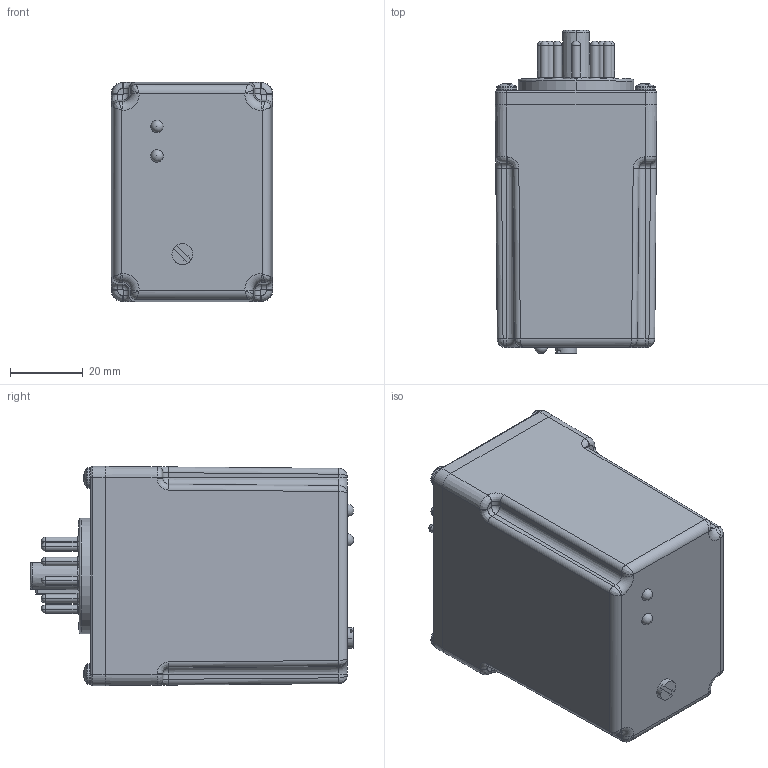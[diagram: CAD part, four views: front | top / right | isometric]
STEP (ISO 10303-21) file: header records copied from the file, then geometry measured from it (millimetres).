
FILE_DESCRIPTION(('FreeCAD Model'),'2;1');
FILE_NAME('Open CASCADE Shape Model','2023-06-06T13:09:39',(''),(''), 'Open CASCADE STEP processor 7.6','FreeCAD','Unknown');
FILE_SCHEMA(('AUTOMOTIVE_DESIGN { 1 0 10303 214 1 1 1 1 }'));
Products named in the file (1): Compound001
Bounding box: 44.45 x 88.95 x 60.33 mm (x, y, z)
Surface area: 44483.3 mm2 (no closed solid volume)
Topology: 0 solids, 24 shells, 1940 faces, 4786 edges, 2960 vertices
Faces by surface type: plane 598, cylinder 530, bspline 326, torus 282, revolution 140, cone 60, sphere 4
Entity records: 187213 total; most frequent: CARTESIAN_POINT 96615, DIRECTION 15095, ORIENTED_EDGE 9532, PCURVE 9532, DEFINITIONAL_REPRESENTATION 9532, LINE 8855, VECTOR 8855, EDGE_CURVE 4774
